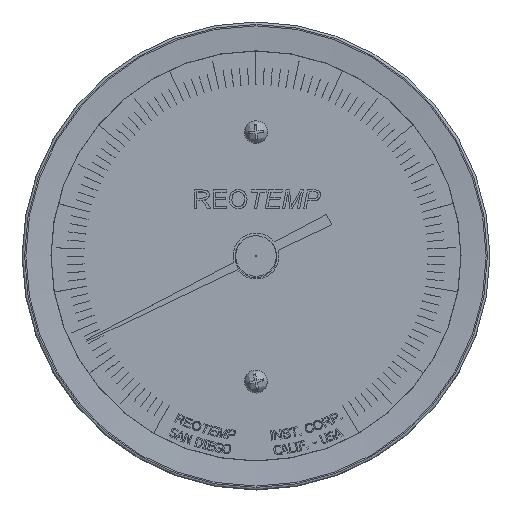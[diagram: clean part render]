
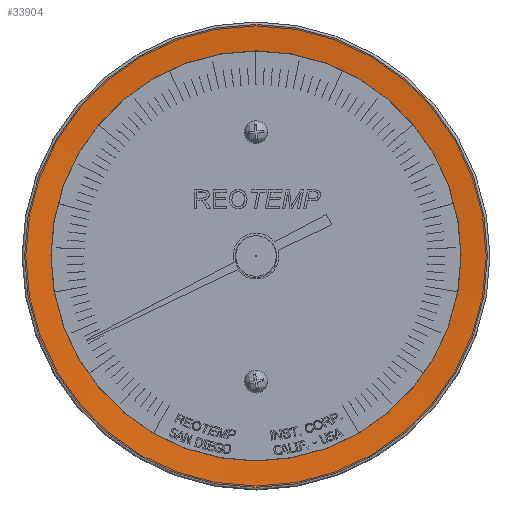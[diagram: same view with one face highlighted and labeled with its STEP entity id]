
A CAD part, top view. The second image highlights one B-rep face of the part: STEP entity #33904.
In plain terms, the highlighted conical face has half-angle 85 degrees and reference radius 36.331 mm.
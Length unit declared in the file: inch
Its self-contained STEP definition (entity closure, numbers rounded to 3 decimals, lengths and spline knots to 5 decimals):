
#10461=CONICAL_SURFACE($,#35435,1.43036,85.);
#11832=FACE_BOUND($,#14637,.T.);
#12868=FACE_OUTER_BOUND($,#14636,.T.);
#14636=EDGE_LOOP($,(#27437));
#14637=EDGE_LOOP($,(#27438));
#16001=CIRCLE($,#35434,1.33664);
#16002=CIRCLE($,#35436,1.50869);
#17230=VERTEX_POINT($,#50840);
#17231=VERTEX_POINT($,#50843);
#20958=EDGE_CURVE($,#17230,#17230,#16001,.T.);
#20959=EDGE_CURVE($,#17231,#17231,#16002,.T.);
#27437=ORIENTED_EDGE($,*,*,#20959,.F.);
#27438=ORIENTED_EDGE($,*,*,#20958,.F.);
#33904=ADVANCED_FACE($,(#12868,#11832),#10461,.F.);
#35434=AXIS2_PLACEMENT_3D($,#50841,#38551,#38552);
#35435=AXIS2_PLACEMENT_3D($,#50842,#38553,#38554);
#35436=AXIS2_PLACEMENT_3D($,#50844,#38555,#38556);
#38551=DIRECTION('center_axis',(0.,0.,
1.));
#38552=DIRECTION('ref_axis',(-1.,0.,0.));
#38553=DIRECTION('center_axis',(0.,0.,1.));
#38554=DIRECTION('ref_axis',(1.,0.,0.));
#38555=DIRECTION('center_axis',(0.,0.,
-1.));
#38556=DIRECTION('ref_axis',(-1.,0.,0.));
#50840=CARTESIAN_POINT('',(8.16643,2.32474,4.8414));
#50841=CARTESIAN_POINT('Origin',(6.82979,2.32474,4.8414));
#50842=CARTESIAN_POINT('Origin',(6.82979,2.32474,4.8496));
#50843=CARTESIAN_POINT('',(8.33848,2.32474,4.85645));
#50844=CARTESIAN_POINT('Origin',(6.82979,2.32474,4.85645));
